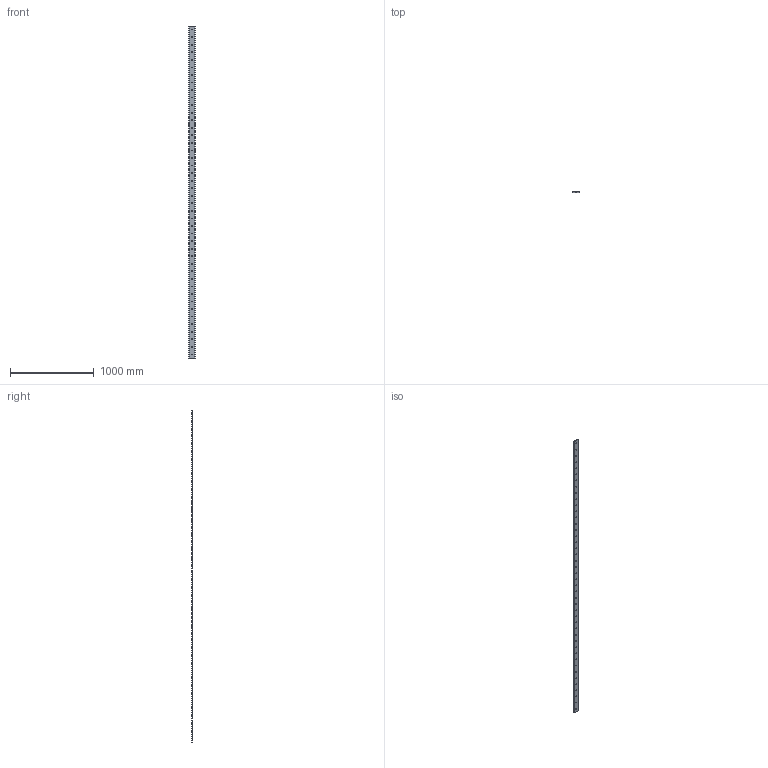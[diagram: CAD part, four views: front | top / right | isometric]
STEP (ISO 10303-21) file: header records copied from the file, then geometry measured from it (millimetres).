
FILE_DESCRIPTION(('STEP AP203'),'1');
FILE_NAME('flat_slide_ssm763956.stp','2021-10-13T02:19:36',('TraceParts'),('TraceParts S.A.'),'Spatial InterOp 3D',' ',' ');
FILE_SCHEMA(('CONFIG_CONTROL_DESIGN'));
Length unit declared in the file: millimetre
Products named in the file (1): 1
Bounding box: 75.68 x 6.1 x 3956 mm (x, y, z)
Volume: 1729220.1 mm3; surface area: 620180.8 mm2
Topology: 1 solids, 1 shells, 100 faces, 294 edges, 196 vertices
Faces by surface type: cylinder 92, plane 8
Entity records: 3662 total; most frequent: DIRECTION 680, CARTESIAN_POINT 591, ORIENTED_EDGE 588, EDGE_CURVE 294, AXIS2_PLACEMENT_3D 285, VERTEX_POINT 196, EDGE_LOOP 188, CIRCLE 184
